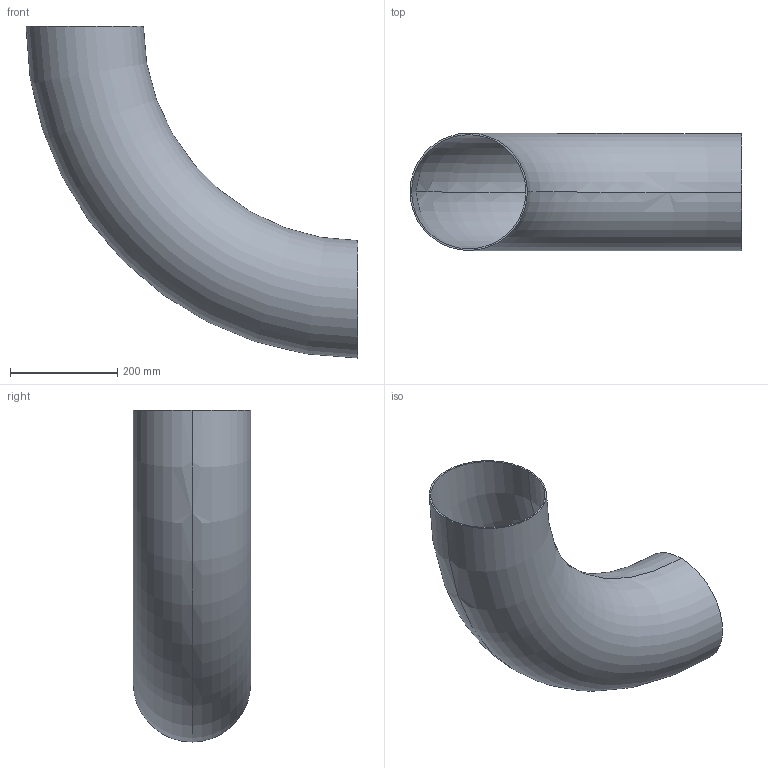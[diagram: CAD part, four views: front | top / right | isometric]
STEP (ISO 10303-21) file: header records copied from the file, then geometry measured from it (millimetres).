
FILE_DESCRIPTION (( 'STEP AP203' ), '1' );
FILE_NAME ('3D_R1655_219.1x3_17362370.STEP', '2024-08-05T09:26:34', ( '' ), ( '' ), 'SwSTEP 2.0', 'SolidWorks 2024', '' );
FILE_SCHEMA (( 'CONFIG_CONTROL_DESIGN' ));
Length unit declared in the file: millimetre
Products named in the file (1): 3D_R1655_219.1x3_17362370
Bounding box: 619.55 x 219.1 x 619.55 mm (x, y, z)
Volume: 1631608.5 mm3; surface area: 1091812.4 mm2
Topology: 1 solids, 1 shells, 6 faces, 12 edges, 8 vertices
Faces by surface type: torus 4, plane 2
Entity records: 249 total; most frequent: DIRECTION 38, CARTESIAN_POINT 27, ORIENTED_EDGE 24, AXIS2_PLACEMENT_3D 19, CIRCLE 12, EDGE_CURVE 12, EDGE_LOOP 8, PERSON_AND_ORGANIZATION 8
